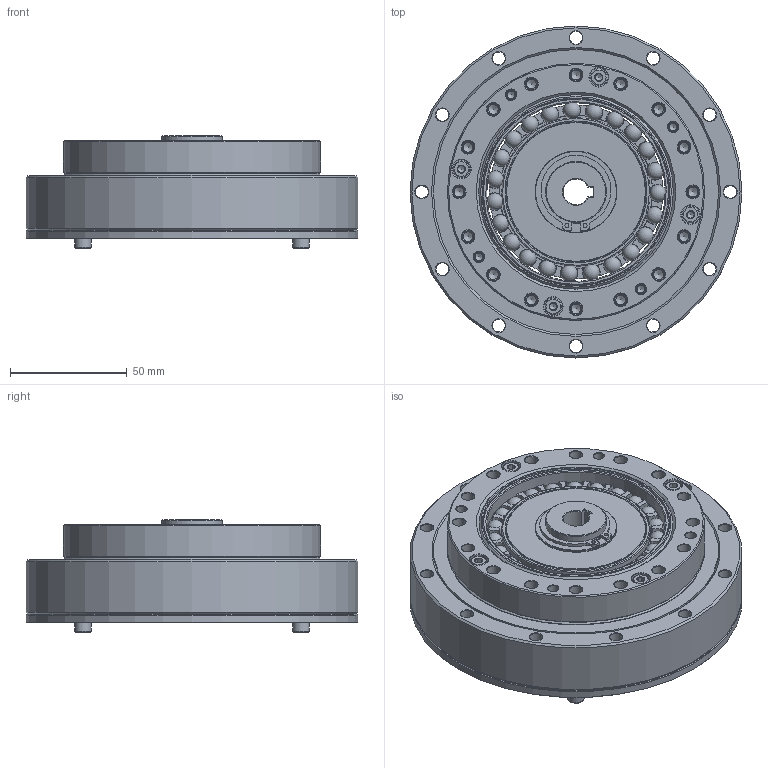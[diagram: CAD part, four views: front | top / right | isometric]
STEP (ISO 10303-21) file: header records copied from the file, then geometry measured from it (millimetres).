
FILE_DESCRIPTION(/* description */ (''),/* implementation_level */ '2;1');
FILE_NAME(/* name */ 'LHG-32-XX-U-II-φ11.stp',/* time_stamp */ '2023-07-08T16:09:26+08:00',/* author */ (''),/* organization */ (''),/* preprocessor_version */ 'ST-DEVELOPER v16.7',/* originating_system */ 'SIEMENS PLM Software NX 12.0',/* authorisation */ '');
FILE_SCHEMA (('AUTOMOTIVE_DESIGN { 1 0 10303 214 3 1 1 1 }'));
Length unit declared in the file: millimetre
Products named in the file (18): EB608012-32KC-46; EB608012-32KE-01; TC-110x122x6; O-120x1.5; O-90x1; GB-T70.1-2000,M4x10; GB-T70.1-2000,M4x16; 铜垫圈26.5x35x1; 轴用弹性挡圈φ26; CS-32-XX-03; CS-32-00-02; CS-32-00-04; CSG-32-00-01-K11; 柔轮LHT-32; 刚轮LHT-32; EB608012-32KE; 交叉轴承LHT-32; LHG-32-XX-U-II-φ11
Assembly tree (23 placements, depth 3):
  LHG-32-XX-U-II-φ11
    交叉轴承LHT-32
      TC-110x122x6
    刚轮LHT-32
    柔轮LHT-32
    EB608012-32KE
      EB608012-32KE-01
      EB608012-32KC-46
    CSG-32-00-01-K11
    CS-32-00-04
    CS-32-00-02
    CS-32-XX-03
    轴用弹性挡圈φ26
    铜垫圈26.5x35x1
    GB-T70.1-2000,M4x16  x4
    GB-T70.1-2000,M4x10  x4
    O-90x1
    O-120x1.5
Bounding box: 142 x 142 x 48 mm (x, y, z)
Volume: 338580.3 mm3; surface area: 190735.1 mm2
Topology: 47 solids, 47 shells, 964 faces, 2298 edges, 1411 vertices
Faces by surface type: plane 322, cone 292, cylinder 234, torus 91, sphere 23, revolution 2
Full cylindrical faces by diameter (mm): 1.733 x2, 3.3 x16, 3.838 x8, 4.2 x16, 4.5 x16, 5.5 x40, 7 x8, 8 x4, 24.9 x1, 26 x2, 26.5 x4, 34 x1, 35 x1, 53 x2, 60 x2, 63.6 x2, 65.5 x1, 69.5 x1, 74.3 x1, 76.45 x2, 80 x2, 80.92 x1, 82.91 x1, 83.247 x1, 86 x1, 88 x2, 88.5 x1, 90 x1, 92.6 x1, 101 x1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
Entity records: 22692 total; most frequent: CARTESIAN_POINT 5075, DIRECTION 3756, ORIENTED_EDGE 2774, AXIS2_PLACEMENT_3D 1682, EDGE_CURVE 1387, EDGE_LOOP 1344, VERTEX_POINT 1126, FACE_BOUND 1081
